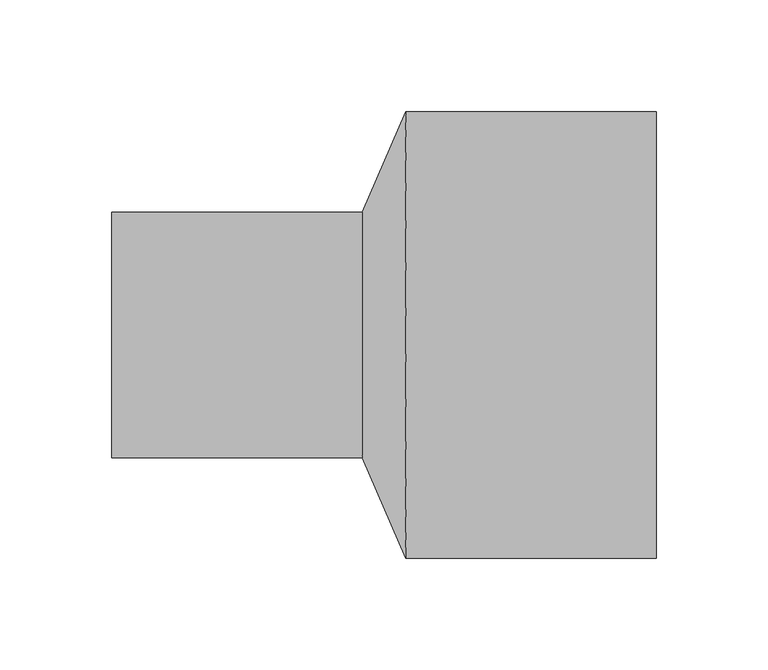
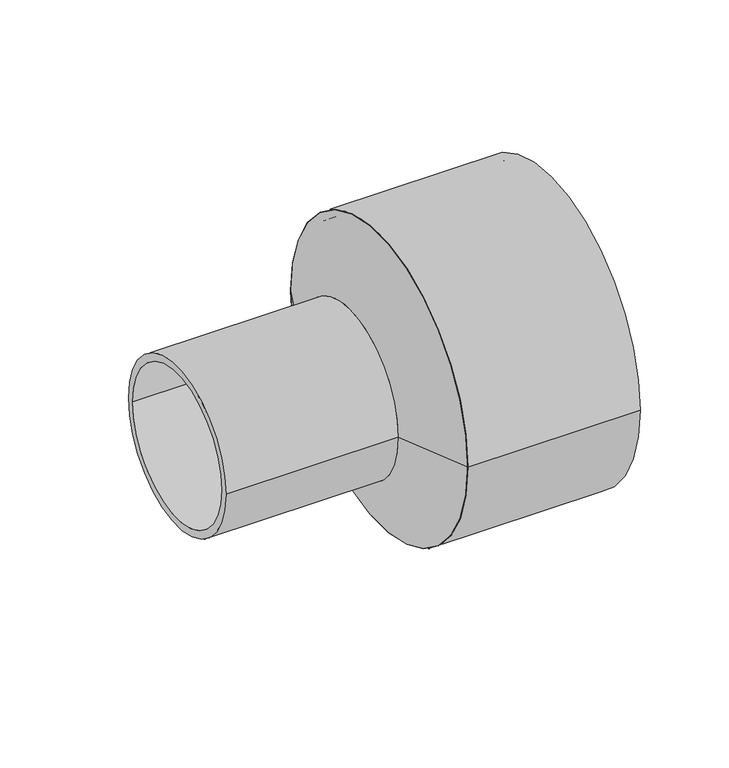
"""IFC4 building model written with IfcOpenShell, lengths in millimetres: pipe fitting geometry, EGB_VASEN_ PPR_Manguito reductor a tope WXRB110 : Manguito reductor a tope WXRB110."""

from ifc_helpers import new_model, si_unit, point, frame, origin, origin_2d, place, context, project, spatial, polyline, circle_curve, trimmed, segment, composite_curve, outline, extrude, source, transform, mapped, element, save
from ifc_brep_helpers import plane_surface, revolved_surface, advanced_brep


def pipe_fitting_1c82b054(model_context):
    return source(origin(), model_context, "Body", "SolidModel", [
        extrude(outline(composite_curve([segment(trimmed(circle_curve(origin_2d(), 100.0), [point((-100.0, 0.0))], [point((100.0, 0.0))], False, "CARTESIAN"), True, "CONTINUOUS"), segment(trimmed(circle_curve(origin_2d(), 100.0), [point((100.0, 0.0))], [point((-100.0, 0.0))], False, "CARTESIAN"), True, "CONTINUOUS")], self_intersect=False), holes=[composite_curve([segment(trimmed(circle_curve(origin_2d(), 95.0), [point((-95.0, 0.0))], [point((95.0, 0.0))], True, "CARTESIAN"), True, "CONTINUOUS"), segment(trimmed(circle_curve(origin_2d(), 95.0), [point((95.0, 0.0))], [point((-95.0, 0.0))], True, "CARTESIAN"), True, "CONTINUOUS")], self_intersect=False)]), frame((9.76, 0.0, 0.0), z_axis=(1.0, 0.0, 0.0), x_axis=(0.0, 1.0, 0.0)), (0.0, 0.0, 1.0), 112.24),
        extrude(outline(composite_curve([segment(trimmed(circle_curve(origin_2d(), 55.0), [point((-55.0, 0.0))], [point((55.0, 0.0))], False, "CARTESIAN"), True, "CONTINUOUS"), segment(trimmed(circle_curve(origin_2d(), 55.0), [point((55.0, 0.0))], [point((-55.0, 0.0))], False, "CARTESIAN"), True, "CONTINUOUS")], self_intersect=False), holes=[composite_curve([segment(trimmed(circle_curve(origin_2d(), 50.0), [point((-50.0, 0.0))], [point((50.0, 0.0))], True, "CARTESIAN"), True, "CONTINUOUS"), segment(trimmed(circle_curve(origin_2d(), 50.0), [point((50.0, 0.0))], [point((-50.0, 0.0))], True, "CARTESIAN"), True, "CONTINUOUS")], self_intersect=False)]), frame((-122.0, 0.0, 0.0), z_axis=(1.0, 0.0, 0.0), x_axis=(0.0, 1.0, 0.0)), (0.0, 0.0, 1.0), 112.24),
        advanced_brep(
        [(9.76, -100.0, 0.0), (9.76, 100.0, 0.0), (-9.76, -55.0, 0.0), (-9.76, 55.0, 0.0)],
        [
            (0, 1, circle_curve(frame((9.76, 0.0, 0.0), z_axis=(1.0, 0.0, 0.0), x_axis=(0.0, -1.0, 0.0)), 100.0)),
            (1, 0, circle_curve(frame((9.76, 0.0, 0.0), z_axis=(1.0, 0.0, 0.0), x_axis=(0.0, 1.0, 0.0)), 100.0)),
            (2, 3, circle_curve(frame((-9.76, 0.0, 0.0), z_axis=(-1.0, 0.0, 0.0), x_axis=(0.0, 1.0, 0.0)), 55.0)),
            (3, 2, circle_curve(frame((-9.76, 0.0, 0.0), z_axis=(-1.0, 0.0, 0.0), x_axis=(0.0, -1.0, 0.0)), 55.0)),
            (3, 1),
            (0, 2),
        ],
        [
            plane_surface(frame((9.76, 0.0, 0.0), z_axis=(1.0, 0.0, 0.0), x_axis=(0.0, 0.0, -1.0))),
            plane_surface(frame((-9.76, 0.0, 0.0), z_axis=(-1.0, 0.0, 0.0), x_axis=(0.0, 0.0, -1.0))),
            revolved_surface(polyline([(-9.759999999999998, 55.00000002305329, 0.0), (9.759999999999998, 100.0, 0.0)]), (-33.6177778, 0.0, 0.0), (1.0, 0.0, 0.0)),
            revolved_surface(polyline([(-9.759999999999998, -55.00000002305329, 0.0), (9.759999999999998, -100.0, 0.0)]), (-33.6177778, 0.0, 0.0), (1.0, 0.0, 0.0)),
        ],
        [
            (0, [[1, 2]]),
            (1, [[3, 4]]),
            (2, [[-4, 5, -1, 6]]),
            (3, [[-3, -6, -2, -5]]),
        ],
    ),
    ])


if __name__ == "__main__":
    model = new_model("IFC4")
    model_context = context("Model", 3, world=origin())
    ifc_project = project(units=[si_unit("LENGTHUNIT", "METRE", prefix="MILLI")], contexts=[model_context])
    site = spatial("IfcSite", under=ifc_project)
    building = spatial("IfcBuilding", under=site)
    placement = place(None, origin())
    pipe_fitting_shape = pipe_fitting_1c82b054(model_context)
    element("IfcPipeFitting", 1, ObjectType="EGB_VASEN_ PPR_Manguito reductor a tope WXRB110 : Manguito reductor a tope WXRB110", at=placement, inside=building, context=model_context, shape_type="MappedRepresentation", body=[
        mapped(pipe_fitting_shape, transform((0.0, 0.0, 0.0), x_axis=(1.0, 0.0, 0.0), y_axis=(0.0, 1.0, 0.0), z_axis=(0.0, 0.0, 1.0))),
    ])
    save(model, "model.ifc")
